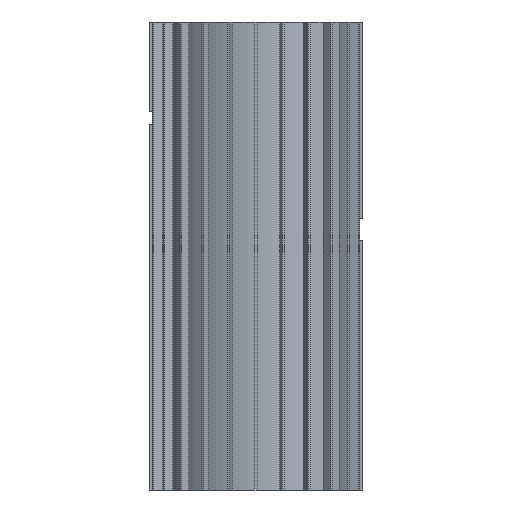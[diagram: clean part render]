
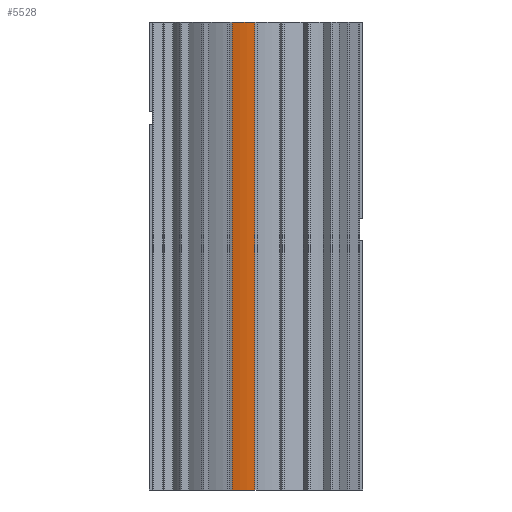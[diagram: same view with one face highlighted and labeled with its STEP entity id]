
A CAD part, front view. The second image highlights one B-rep face of the part: STEP entity #5528.
In plain terms, the highlighted cylindrical face has radius 47.5 mm (diameter 95 mm), a partial arc.
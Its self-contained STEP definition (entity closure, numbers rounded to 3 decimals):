
#32 = PLANE('',#33);
#33 = AXIS2_PLACEMENT_3D('',#34,#35,#36);
#34 = CARTESIAN_POINT('',(0.,0.,57.));
#35 = DIRECTION('',(0.,0.,1.));
#36 = DIRECTION('',(1.,0.,-0.));
#1300 = VERTEX_POINT('',#1301);
#1301 = CARTESIAN_POINT('',(-11.713,-46.033,57.));
#1315 = PLANE('',#1316);
#1316 = AXIS2_PLACEMENT_3D('',#1317,#1318,#1319);
#1317 = CARTESIAN_POINT('',(-13.008,-50.866,57.));
#1318 = DIRECTION('',(-0.966,0.259,0.));
#1319 = DIRECTION('',(0.259,0.966,0.));
#1327 = EDGE_CURVE('',#1300,#1328,#1330,.T.);
#1328 = VERTEX_POINT('',#1329);
#1329 = CARTESIAN_POINT('',(-0.6,-47.496,57.));
#1330 = SURFACE_CURVE('',#1331,(#1336,#1343),.PCURVE_S1.);
#1331 = CIRCLE('',#1332,47.5);
#1332 = AXIS2_PLACEMENT_3D('',#1333,#1334,#1335);
#1333 = CARTESIAN_POINT('',(0.,0.,57.));
#1334 = DIRECTION('',(0.,0.,1.));
#1335 = DIRECTION('',(1.,0.,0.));
#1336 = PCURVE('',#32,#1337);
#1337 = DEFINITIONAL_REPRESENTATION('',(#1338),#1342);
#1338 = CIRCLE('',#1339,47.5);
#1339 = AXIS2_PLACEMENT_2D('',#1340,#1341);
#1340 = CARTESIAN_POINT('',(0.,0.));
#1341 = DIRECTION('',(1.,0.));
#1342 = ( GEOMETRIC_REPRESENTATION_CONTEXT(2) 
PARAMETRIC_REPRESENTATION_CONTEXT() REPRESENTATION_CONTEXT('2D SPACE',''
  ) );
#1343 = PCURVE('',#1344,#1349);
#1344 = CYLINDRICAL_SURFACE('',#1345,47.5);
#1345 = AXIS2_PLACEMENT_3D('',#1346,#1347,#1348);
#1346 = CARTESIAN_POINT('',(0.,0.,57.));
#1347 = DIRECTION('',(-0.,-0.,-1.));
#1348 = DIRECTION('',(1.,0.,0.));
#1349 = DEFINITIONAL_REPRESENTATION('',(#1350),#1354);
#1350 = LINE('',#1351,#1352);
#1351 = CARTESIAN_POINT('',(-0.,0.));
#1352 = VECTOR('',#1353,1.);
#1353 = DIRECTION('',(-1.,0.));
#1354 = ( GEOMETRIC_REPRESENTATION_CONTEXT(2) 
PARAMETRIC_REPRESENTATION_CONTEXT() REPRESENTATION_CONTEXT('2D SPACE',''
  ) );
#1372 = PLANE('',#1373);
#1373 = AXIS2_PLACEMENT_3D('',#1374,#1375,#1376);
#1374 = CARTESIAN_POINT('',(-0.6,-47.1,57.));
#1375 = DIRECTION('',(1.,0.,0.));
#1376 = DIRECTION('',(0.,-1.,0.));
#3226 = PLANE('',#3227);
#3227 = AXIS2_PLACEMENT_3D('',#3228,#3229,#3230);
#3228 = CARTESIAN_POINT('',(49.8,0.,287.));
#3229 = DIRECTION('',(0.,0.,1.));
#3230 = DIRECTION('',(1.,0.,0.));
#5486 = VERTEX_POINT('',#5487);
#5487 = CARTESIAN_POINT('',(-11.713,-46.033,287.));
#5508 = EDGE_CURVE('',#5486,#1300,#5509,.T.);
#5509 = SURFACE_CURVE('',#5510,(#5514,#5521),.PCURVE_S1.);
#5510 = LINE('',#5511,#5512);
#5511 = CARTESIAN_POINT('',(-11.713,-46.033,57.));
#5512 = VECTOR('',#5513,1.);
#5513 = DIRECTION('',(-0.,-0.,-1.));
#5514 = PCURVE('',#1315,#5515);
#5515 = DEFINITIONAL_REPRESENTATION('',(#5516),#5520);
#5516 = LINE('',#5517,#5518);
#5517 = CARTESIAN_POINT('',(5.004,0.));
#5518 = VECTOR('',#5519,1.);
#5519 = DIRECTION('',(0.,1.));
#5520 = ( GEOMETRIC_REPRESENTATION_CONTEXT(2) 
PARAMETRIC_REPRESENTATION_CONTEXT() REPRESENTATION_CONTEXT('2D SPACE',''
  ) );
#5521 = PCURVE('',#1344,#5522);
#5522 = DEFINITIONAL_REPRESENTATION('',(#5523),#5527);
#5523 = LINE('',#5524,#5525);
#5524 = CARTESIAN_POINT('',(-4.463,0.));
#5525 = VECTOR('',#5526,1.);
#5526 = DIRECTION('',(-0.,1.));
#5527 = ( GEOMETRIC_REPRESENTATION_CONTEXT(2) 
PARAMETRIC_REPRESENTATION_CONTEXT() REPRESENTATION_CONTEXT('2D SPACE',''
  ) );
#5528 = ADVANCED_FACE('',(#5529),#1344,.T.);
#5529 = FACE_BOUND('',#5530,.F.);
#5530 = EDGE_LOOP('',(#5531,#5532,#5533,#5557));
#5531 = ORIENTED_EDGE('',*,*,#1327,.F.);
#5532 = ORIENTED_EDGE('',*,*,#5508,.F.);
#5533 = ORIENTED_EDGE('',*,*,#5534,.T.);
#5534 = EDGE_CURVE('',#5486,#5535,#5537,.T.);
#5535 = VERTEX_POINT('',#5536);
#5536 = CARTESIAN_POINT('',(-0.6,-47.496,287.));
#5537 = SURFACE_CURVE('',#5538,(#5543,#5550),.PCURVE_S1.);
#5538 = CIRCLE('',#5539,47.5);
#5539 = AXIS2_PLACEMENT_3D('',#5540,#5541,#5542);
#5540 = CARTESIAN_POINT('',(0.,0.,287.));
#5541 = DIRECTION('',(0.,0.,1.));
#5542 = DIRECTION('',(1.,0.,0.));
#5543 = PCURVE('',#1344,#5544);
#5544 = DEFINITIONAL_REPRESENTATION('',(#5545),#5549);
#5545 = LINE('',#5546,#5547);
#5546 = CARTESIAN_POINT('',(-0.,-230.));
#5547 = VECTOR('',#5548,1.);
#5548 = DIRECTION('',(-1.,0.));
#5549 = ( GEOMETRIC_REPRESENTATION_CONTEXT(2) 
PARAMETRIC_REPRESENTATION_CONTEXT() REPRESENTATION_CONTEXT('2D SPACE',''
  ) );
#5550 = PCURVE('',#3226,#5551);
#5551 = DEFINITIONAL_REPRESENTATION('',(#5552),#5556);
#5552 = CIRCLE('',#5553,47.5);
#5553 = AXIS2_PLACEMENT_2D('',#5554,#5555);
#5554 = CARTESIAN_POINT('',(-49.8,0.));
#5555 = DIRECTION('',(1.,0.));
#5556 = ( GEOMETRIC_REPRESENTATION_CONTEXT(2) 
PARAMETRIC_REPRESENTATION_CONTEXT() REPRESENTATION_CONTEXT('2D SPACE',''
  ) );
#5557 = ORIENTED_EDGE('',*,*,#5558,.T.);
#5558 = EDGE_CURVE('',#5535,#1328,#5559,.T.);
#5559 = SURFACE_CURVE('',#5560,(#5564,#5571),.PCURVE_S1.);
#5560 = LINE('',#5561,#5562);
#5561 = CARTESIAN_POINT('',(-0.6,-47.496,57.));
#5562 = VECTOR('',#5563,1.);
#5563 = DIRECTION('',(-0.,-0.,-1.));
#5564 = PCURVE('',#1344,#5565);
#5565 = DEFINITIONAL_REPRESENTATION('',(#5566),#5570);
#5566 = LINE('',#5567,#5568);
#5567 = CARTESIAN_POINT('',(-4.7,0.));
#5568 = VECTOR('',#5569,1.);
#5569 = DIRECTION('',(-0.,1.));
#5570 = ( GEOMETRIC_REPRESENTATION_CONTEXT(2) 
PARAMETRIC_REPRESENTATION_CONTEXT() REPRESENTATION_CONTEXT('2D SPACE',''
  ) );
#5571 = PCURVE('',#1372,#5572);
#5572 = DEFINITIONAL_REPRESENTATION('',(#5573),#5577);
#5573 = LINE('',#5574,#5575);
#5574 = CARTESIAN_POINT('',(0.396,0.));
#5575 = VECTOR('',#5576,1.);
#5576 = DIRECTION('',(0.,1.));
#5577 = ( GEOMETRIC_REPRESENTATION_CONTEXT(2) 
PARAMETRIC_REPRESENTATION_CONTEXT() REPRESENTATION_CONTEXT('2D SPACE',''
  ) );
